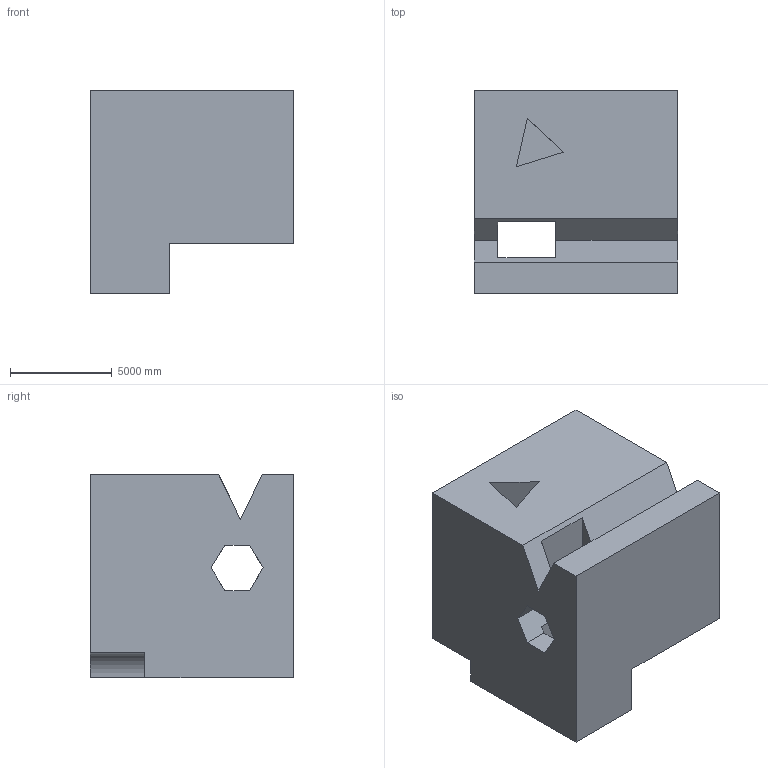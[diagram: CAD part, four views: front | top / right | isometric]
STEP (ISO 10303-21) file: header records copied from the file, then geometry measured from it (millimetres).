
FILE_DESCRIPTION (( 'STEP AP203' ), '1' );
FILE_NAME ('1536.STEP', '2022-08-18T15:08:44', ( 'user' ), ( '' ), 'SwSTEP 2.0', 'SolidWorks 2021', '' );
FILE_SCHEMA (( 'CONFIG_CONTROL_DESIGN' ));
Length unit declared in the file: centimetre
Products named in the file (1): 1536
Bounding box: 10000 x 10000 x 10000 mm (x, y, z)
Volume: 724456752501 mm3; surface area: 710696824.2 mm2
Topology: 1 solids, 1 shells, 35 faces, 108 edges, 72 vertices
Faces by surface type: plane 34, cylinder 1
Entity records: 1273 total; most frequent: CARTESIAN_POINT 216, ORIENTED_EDGE 216, DIRECTION 182, EDGE_CURVE 108, VECTOR 106, LINE 106, VERTEX_POINT 72, AXIS2_PLACEMENT_3D 38
